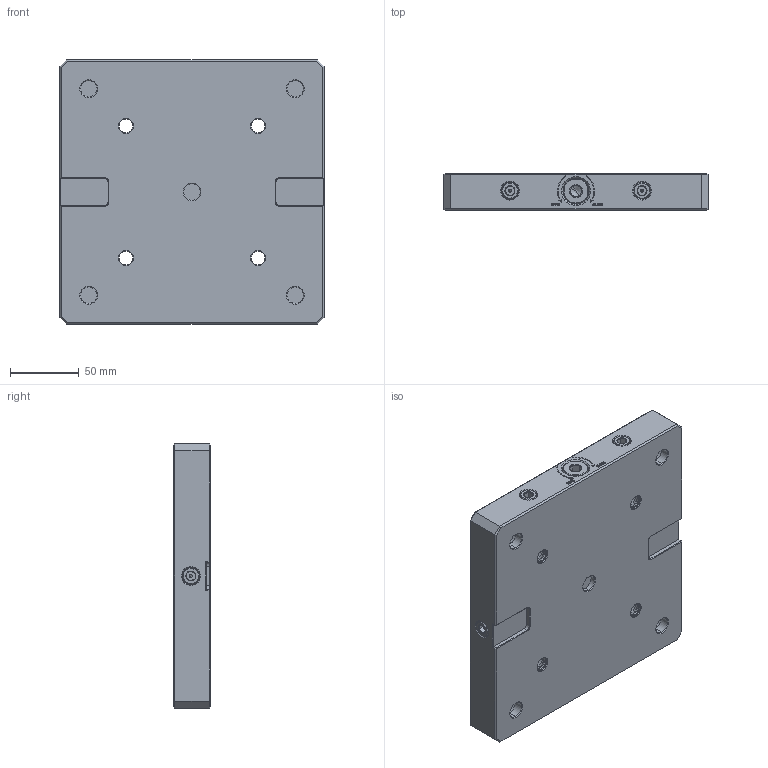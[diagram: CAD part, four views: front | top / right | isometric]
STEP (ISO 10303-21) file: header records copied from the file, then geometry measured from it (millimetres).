
FILE_DESCRIPTION((''),'2;1');
FILE_NAME('TI_WH_96ZPS_0S192NP001_ASM','2026-06-08T11:04:45',('Admin'),(''),'CREO PARAMETRIC BY PTC INC, 2025010','CREO PARAMETRIC BY PTC INC, 2025010','');
FILE_SCHEMA(('CONFIG_CONTROL_DESIGN'));
Length unit declared in the file: millimetre
Products named in the file (16): B40101-00003_-26030001; F009-0010923B_-1-S0001; B40101-00003_-12730001; B40101-00003_-20250001; _30001; B40101-00003_-26010001; B40101-00003_-27800001; B40101-00003_-30370001; B11500-00185_O--310001; B11500-00185_O--320001; B11500-00185_O--330001; B11500-00185_O--350001; 200; NT-S96P192V2_ASM; CAP_1; TI_WH_96ZPS_0S192NP001_ASM
Assembly tree (18 placements, depth 3):
  TI_WH_96ZPS_0S192NP001_ASM
    NT-S96P192V2_ASM
      B40101-00003_-26030001
      F009-0010923B_-1-S0001
      B40101-00003_-12730001
      B40101-00003_-20250001
      _30001
      B40101-00003_-26010001
      B40101-00003_-27800001
      B40101-00003_-30370001
      B11500-00185_O--310001
      B11500-00185_O--320001
      B11500-00185_O--330001
      B11500-00185_O--350001
      200
    CAP_1  x4
Bounding box: 192 x 27 x 192 mm (x, y, z)
Volume: 939339.9 mm3; surface area: 119656.8 mm2
Topology: 17 solids, 17 shells, 714 faces, 1629 edges, 981 vertices
Faces by surface type: plane 281, cone 192, cylinder 172, extrusion 40, torus 26, bspline 3
Entity records: 28007 total; most frequent: CARTESIAN_POINT 12867, DIRECTION 3165, ORIENTED_EDGE 2974, EDGE_CURVE 1487, AXIS2_PLACEMENT_3D 1173, VERTEX_POINT 909, VECTOR 819, LINE 779
